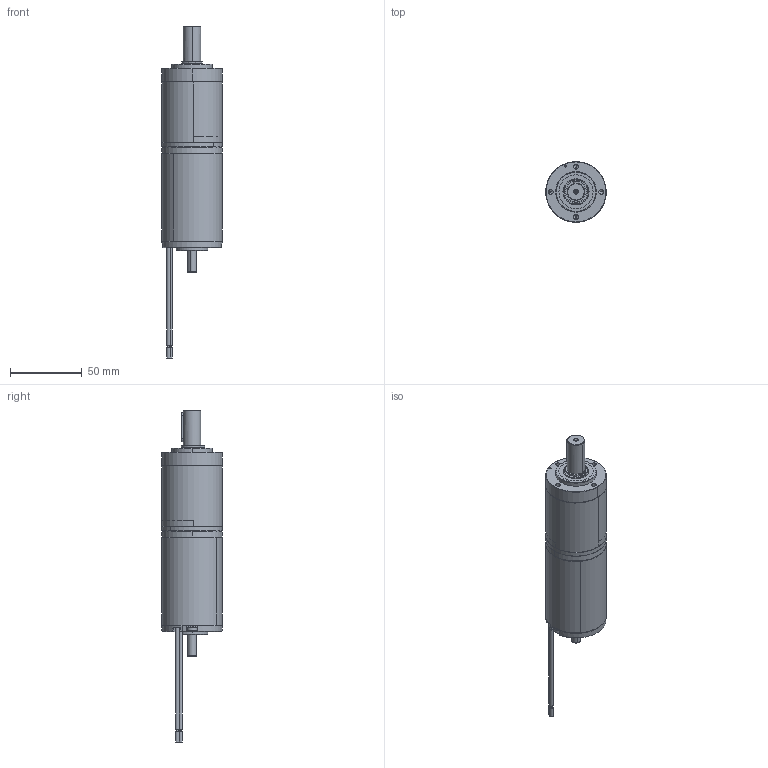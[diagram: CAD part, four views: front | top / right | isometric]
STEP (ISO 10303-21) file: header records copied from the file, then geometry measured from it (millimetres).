
FILE_DESCRIPTION (( 'STEP AP214' ), '1' );
FILE_NAME ('BRx42-25-PGx42 (2 Stage).STEP', '2025-05-12T11:11:44', ( '' ), ( '' ), 'SwSTEP 2.0', 'SolidWorks 2023', '' );
FILE_SCHEMA (( 'AUTOMOTIVE_DESIGN' ));
Length unit declared in the file: millimetre
Products named in the file (1): BRx42-25-PGx42 (2 Stage)
Bounding box: 42 x 42 x 230.65 mm (x, y, z)
Volume: 109003 mm3; surface area: 56563.1 mm2
Topology: 21 solids, 23 shells, 1633 faces, 3914 edges, 2451 vertices
Faces by surface type: plane 534, cylinder 355, cone 310, torus 232, bspline 186, sphere 16
Entity records: 75564 total; most frequent: CARTESIAN_POINT 20141, ORIENTED_EDGE 7804, DIRECTION 7695, EDGE_CURVE 3902, AXIS2_PLACEMENT_3D 3137, VERTEX_POINT 2451, EDGE_LOOP 1825, CIRCLE 1689
